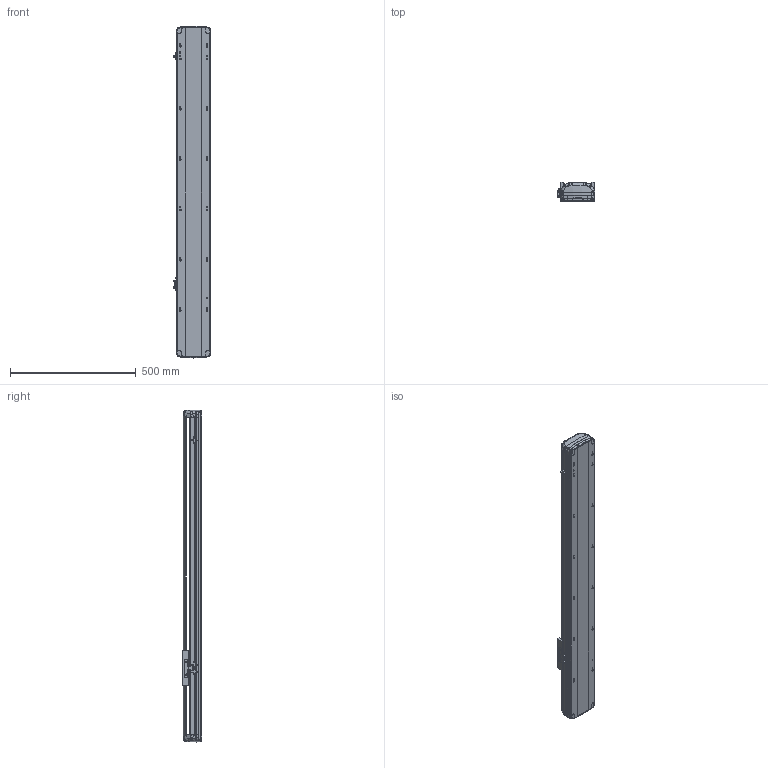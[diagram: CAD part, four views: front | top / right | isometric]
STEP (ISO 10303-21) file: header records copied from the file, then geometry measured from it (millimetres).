
FILE_DESCRIPTION (( 'STEP AP214' ), '1' );
FILE_NAME ('RTH14-XX-900-B-M20B-C4.STEP', '2025-10-24T08:40:21', ( 'Microsoft' ), ( 'Microsoft' ), 'SwSTEP 2.0', 'SolidWorks 2018', '' );
FILE_SCHEMA (( 'AUTOMOTIVE_DESIGN' ));
Length unit declared in the file: millimetre
Products named in the file (7): N_RTH14-R-004-SFSR16賑釱^RTH14-XX-XX-B-M20B-C4; N_RTH14-B-011PB菁釱^RTH14-XX-XX-B-M20B-C4; N_RTH14-B-007B奻裔^RTH14-XX-XX-B-M20B-C4; RTH14-XX-900-B-M20B-C4; N_RTH13-L-012感应片（外置）^RTH14-XX-XX-B-M20B-C4; N_RTH14-GY-001P^RTH14-XX-XX-B-M20B-C4; N_OMRON EE-SX672 传感器^RTH14-XX-XX-B-M20B-C4
Assembly tree (9 placements, depth 2):
  RTH14-XX-900-B-M20B-C4
    N_RTH14-B-011PB菁釱^RTH14-XX-XX-B-M20B-C4
    N_RTH14-B-007B奻裔^RTH14-XX-XX-B-M20B-C4
    N_RTH13-L-012感应片（外置）^RTH14-XX-XX-B-M20B-C4
    N_OMRON EE-SX672 传感器^RTH14-XX-XX-B-M20B-C4  x3
    N_RTH14-R-004-SFSR16賑釱^RTH14-XX-XX-B-M20B-C4
    N_RTH14-GY-001P^RTH14-XX-XX-B-M20B-C4  x2
Bounding box: 148.5 x 78.03 x 1318.99 mm (x, y, z)
Volume: 5324572.4 mm3; surface area: 1223143.8 mm2
Topology: 9 solids, 9 shells, 1954 faces, 5512 edges, 3590 vertices
Faces by surface type: plane 987, cylinder 453, bspline 450, cone 56, torus 8
Entity records: 47988 total; most frequent: CARTESIAN_POINT 21194, ORIENTED_EDGE 6040, DIRECTION 4503, EDGE_CURVE 3020, VERTEX_POINT 1976, LINE 1683, VECTOR 1683, AXIS2_PLACEMENT_3D 1410
